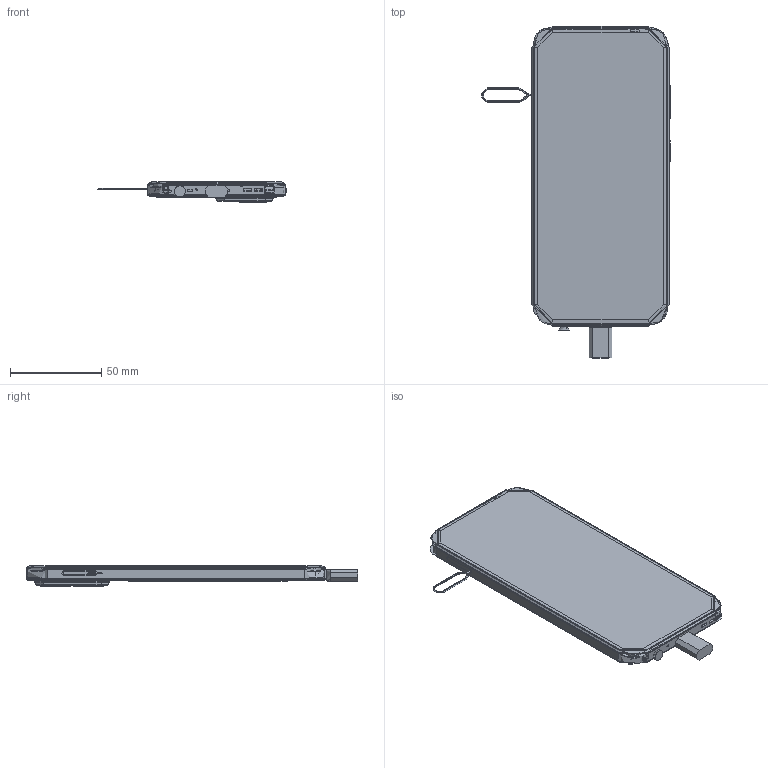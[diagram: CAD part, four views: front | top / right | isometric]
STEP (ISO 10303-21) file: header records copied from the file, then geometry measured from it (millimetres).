
FILE_DESCRIPTION(/* description */ (''),/* implementation_level */ '2;1');
FILE_NAME(/* name */ 'NIGHTH~1',/* time_stamp */ '2024-09-02T13:12:52+03:00',/* author */ (''),/* organization */ (''),/* preprocessor_version */ 'ST-DEVELOPER v16.5',/* originating_system */ '',/* authorisation */ '');
FILE_SCHEMA (('AUTOMOTIVE_DESIGN'));
Products named in the file (154): Document; 03-SQ503_SIMTRAY_DUAL_ASM_1_ASM_ASM; SQ503-SIM-TRAY-DUAL_MAO_1_1; SQ503_SIM_TRAY_DUAL_RUBBER_1_1; SQ503_SIM_STILL_1_1; SQ503_SIM_TRAY_RUBBER_1_1; Block 08; 02-NIGHTHAWK-DECO-PMMA_1; 03-NIGHTHAWK-CAMERA-RING_1; 04_NIGHTHAWK_FR_HOUSING_-100161; Block 02; NIGHTHAWK-SMARTPIN-PCB_1_1; 02_SQ503_SCREWS_ASM_1_ASM_1_ASM; M14-L46-P03-D25-T05-FH-SNY-HZB_; CAMERA_LENS_2; CAMERA_LENS_1; POWER_KEY; V_KAY; 03_NIGHTHAWK_AUDIO_JACK_ASSY_ASM; PH152-1B20C41A-ME_RNM_ASM1; PH152-1B20C41A-ME_RNM_ASM; PH92-T06N022S_PH92-T06N022C_RNM; PLUG_RNM; __5_PH169-0B17C37A_RNM; Block 165; 03_SQ432_USB_ASSY_ASM; 15-16815-111_20220117_ASM; 15-16815-111_ASM_ASM_1_ASM; 15-16815-111_ASM_165_ASM_1_ASM; 16PIN_TYPE-C_ASM_1_ASM_3_ASM_1_ASM; SECOND-MOLDING_ASM_1_ASM_7_ASM__ASM; FIRST-MOLIDING_ASM_1_ASM_8_ASM__ASM; MID-SHELL_ASM_1_ASM_7_ASM_1_ASM; MANIFOLD_SOLID_BREP_15714_1_3_1; MANIFOLD_SOLID_BREP_19149_1_4_1; FIRST-HOUSING_2_5_1; CONTACT-TOP_1_ASM_24_ASM_1_ASM; MANIFOLD_SOLID_BREP_44462_1_1; MANIFOLD_SOLID_BREP_45471_1_1; MANIFOLD_SOLID_BREP_46436_1_1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
Assembly tree (169 placements, depth 10):
  Document
    03-SQ503_SIMTRAY_DUAL_ASM_1_ASM_ASM
      SQ503-SIM-TRAY-DUAL_MAO_1_1
      SQ503_SIM_TRAY_DUAL_RUBBER_1_1
      SQ503_SIM_STILL_1_1
    SQ503_SIM_STILL_1_1
    SQ503_SIM_TRAY_RUBBER_1_1
      Block 08
    02-NIGHTHAWK-DECO-PMMA_1
    03-NIGHTHAWK-CAMERA-RING_1
    04_NIGHTHAWK_FR_HOUSING_-100161
      Block 02
    NIGHTHAWK-SMARTPIN-PCB_1_1
    02_SQ503_SCREWS_ASM_1_ASM_1_ASM
      M14-L46-P03-D25-T05-FH-SNY-HZB_  x16
    CAMERA_LENS_2
    CAMERA_LENS_1
    POWER_KEY
    V_KAY
    03_NIGHTHAWK_AUDIO_JACK_ASSY_ASM
      PH152-1B20C41A-ME_RNM_ASM1
        PH152-1B20C41A-ME_RNM_ASM
        PH92-T06N022S_PH92-T06N022C_RNM
        PLUG_RNM
        __5_PH169-0B17C37A_RNM
          Block 165
    03_SQ432_USB_ASSY_ASM
      15-16815-111_20220117_ASM
        15-16815-111_ASM_ASM_1_ASM
          15-16815-111_ASM_165_ASM_1_ASM
            16PIN_TYPE-C_ASM_1_ASM_3_ASM_1_ASM
              SECOND-MOLDING_ASM_1_ASM_7_ASM__ASM
                FIRST-MOLIDING_ASM_1_ASM_8_ASM__ASM
                  MID-SHELL_ASM_1_ASM_7_ASM_1_ASM
                  FIRST-HOUSING_2_5_1
                  CONTACT-TOP_1_ASM_24_ASM_1_ASM
                  CONTACT-BOT_1_ASM_24_ASM_1_ASM
                SECOND-HOUSING_1_2_1
            SHELL_8_4
            SHELL1_4_1
            PCB1_1_1
              Block 169
      UC8-0B0103R1_ASM
        UC8-0B0103R1-200630001_ASM
          UC8-MX050R02-C__200_ASM
            UC8-MX050R01-C_2_2_ASM
              UC8-MX050R01_3_ASM
                1-159000
                1-212700
                1-396300
                1-535100
                1-543500
                1-1008700
                1-1053000
                1-1385200
                1-1662800
                1-2044800
                1-2221900
                1-2549600
                1-2647900
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Bounding box: 103.3 x 181.6 x 11.21 mm (x, y, z)
Volume: 6037.1 mm3; surface area: 73649 mm2
Topology: 171 solids, 204 shells, 15672 faces, 45084 edges, 29664 vertices
Faces by surface type: plane 9557, bspline 6115
Entity records: 572530 total; most frequent: CARTESIAN_POINT 306719, ORIENTED_EDGE 83520, EDGE_CURVE 41929, B_SPLINE_CURVE_WITH_KNOTS 32769, VERTEX_POINT 27340, EDGE_LOOP 15526, ADVANCED_FACE 14813, FACE_OUTER_BOUND 14813
